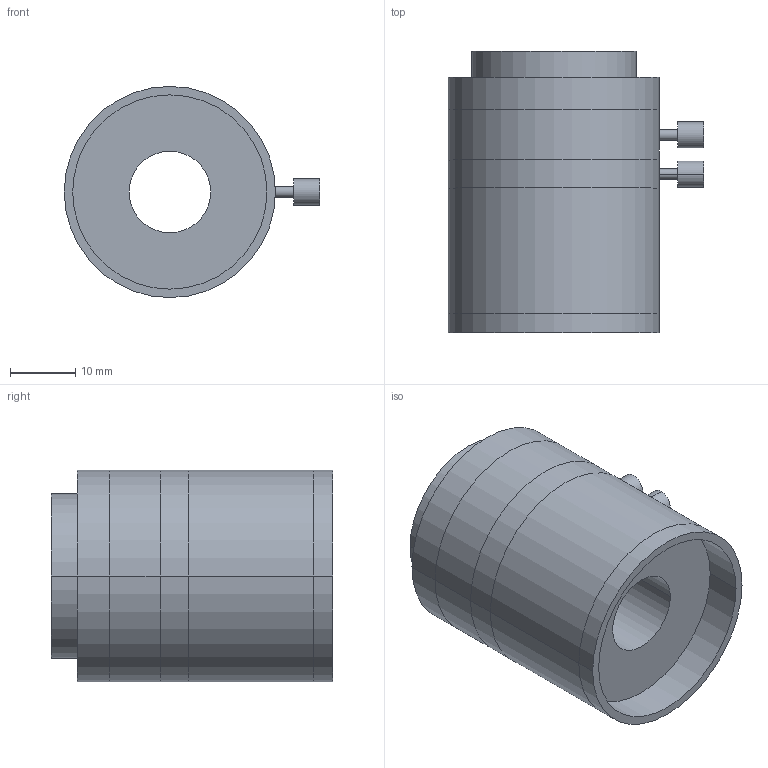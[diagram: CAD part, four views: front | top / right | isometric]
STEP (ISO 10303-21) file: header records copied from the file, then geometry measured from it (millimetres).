
FILE_DESCRIPTION (( 'STEP AP203' ), '1' );
FILE_NAME ('GMHR-3514MCN.STEP', '2019-10-24T05:59:58', ( '' ), ( '' ), 'SwSTEP 2.0', 'SolidWorks 2018', '' );
FILE_SCHEMA (( 'CONFIG_CONTROL_DESIGN' ));
Length unit declared in the file: millimetre
Products named in the file (1): GMHR-3514MCN
Bounding box: 39.2 x 43.2 x 32.4 mm (x, y, z)
Volume: 25556.5 mm3; surface area: 8208.7 mm2
Topology: 3 solids, 3 shells, 40 faces, 76 edges, 48 vertices
Faces by surface type: cylinder 28, plane 12
Entity records: 1101 total; most frequent: DIRECTION 206, CARTESIAN_POINT 165, ORIENTED_EDGE 152, AXIS2_PLACEMENT_3D 89, EDGE_CURVE 76, CIRCLE 48, VERTEX_POINT 48, EDGE_LOOP 48
